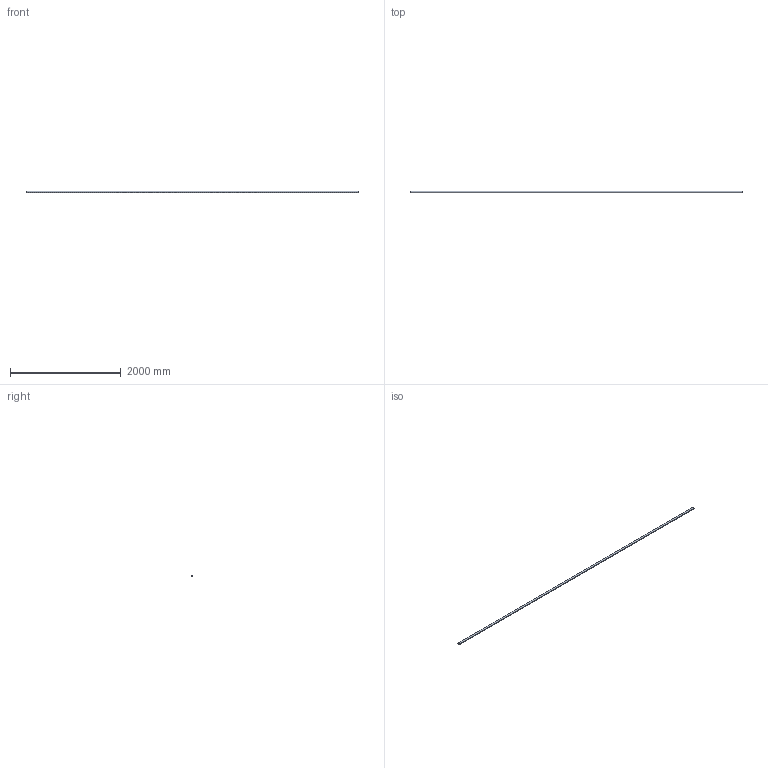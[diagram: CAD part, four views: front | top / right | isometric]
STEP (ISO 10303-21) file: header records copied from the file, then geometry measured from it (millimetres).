
FILE_DESCRIPTION (( 'STEP AP214' ), '1' );
FILE_NAME ('P350000.STEP', '2025-08-17T14:42:33', ( '' ), ( '' ), 'SwSTEP 2.0', 'SolidWorks 2020', '' );
FILE_SCHEMA (( 'AUTOMOTIVE_DESIGN' ));
Length unit declared in the file: millimetre
Products named in the file (1): P350000
Bounding box: 6000 x 35 x 35 mm (x, y, z)
Volume: 947190.2 mm3; surface area: 1263236 mm2
Topology: 1 solids, 1 shells, 6 faces, 12 edges, 8 vertices
Faces by surface type: cylinder 4, plane 2
Entity records: 268 total; most frequent: DIRECTION 34, CARTESIAN_POINT 27, ORIENTED_EDGE 24, AXIS2_PLACEMENT_3D 15, EDGE_CURVE 12, UNCERTAINTY_MEASURE_WITH_UNIT 9, CIRCLE 8, PRESENTATION_LAYER_ASSIGNMENT 8
